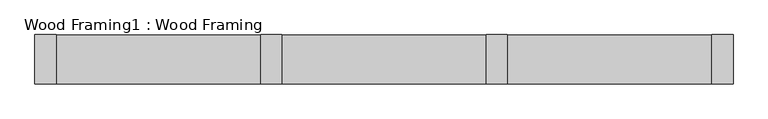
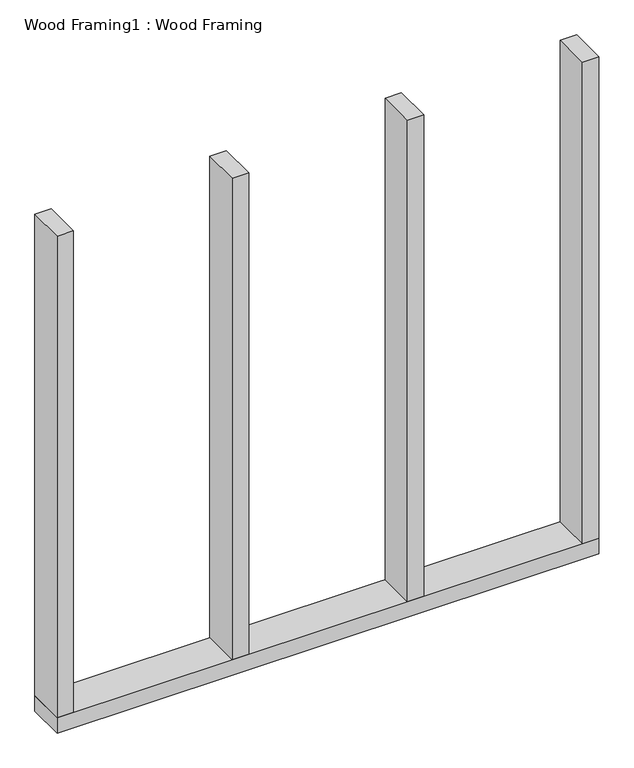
"""IFC4 building model written with IfcOpenShell, lengths in millimetres: proxy geometry, Wood Framing1 : Wood Framing."""

from ifc_helpers import new_model, si_unit, frame, origin, origin_with_axes, place, context, project, spatial, polyline, outline, extrude, source, transform, mapped, element, save


def wood_framing1_wood_framing_6a745cfe(model_context):
    return source(origin(), model_context, "Body", "SweptSolid", [
        extrude(outline(polyline([(-1442.8179718, 34793.6421435), (-1442.8179718, 34882.5421435), (-1404.7179718, 34882.5421435), (-1404.7179718, 34793.6421435), (-1442.8179718, 34793.6421435)])), frame((0.0, 0.0, 38.1), z_axis=(0.0, 0.0, 1.0), x_axis=(1.0, 0.0, 0.0)), (0.0, 0.0, 1.0), 1181.1),
        extrude(outline(polyline([(-1849.2179718, 34793.6421435), (-1849.2179718, 34882.5421435), (-1811.1179718, 34882.5421435), (-1811.1179718, 34793.6421435), (-1849.2179718, 34793.6421435)])), frame((0.0, 0.0, 38.1), z_axis=(0.0, 0.0, 1.0), x_axis=(1.0, 0.0, 0.0)), (0.0, 0.0, 1.0), 1181.1),
        extrude(outline(polyline([(-2255.6179718, 34793.6421435), (-2255.6179718, 34882.5421435), (-2217.5179718, 34882.5421435), (-2217.5179718, 34793.6421435), (-2255.6179718, 34793.6421435)])), frame((0.0, 0.0, 38.1), z_axis=(0.0, 0.0, 1.0), x_axis=(1.0, 0.0, 0.0)), (0.0, 0.0, 1.0), 1181.1),
        extrude(outline(polyline([(-2662.0179718, 34793.6421435), (-2662.0179718, 34882.5421435), (-2623.9179718, 34882.5421435), (-2623.9179718, 34793.6421435), (-2662.0179718, 34793.6421435)])), frame((0.0, 0.0, 38.1), z_axis=(0.0, 0.0, 1.0), x_axis=(1.0, 0.0, 0.0)), (0.0, 0.0, 1.0), 1181.1),
        extrude(outline(polyline([(-1404.7179718, 34882.5421435), (-1404.7179718, 34793.6421435), (-2662.0179718, 34793.6421435), (-2662.0179718, 34882.5421435), (-1404.7179718, 34882.5421435)])), origin_with_axes(), (0.0, 0.0, 1.0), 38.1),
    ])


if __name__ == "__main__":
    model = new_model("IFC4")
    model_context = context("Model", 3, world=origin())
    ifc_project = project(units=[si_unit("LENGTHUNIT", "METRE", prefix="MILLI")], contexts=[model_context])
    site = spatial("IfcSite", under=ifc_project)
    building = spatial("IfcBuilding", under=site)
    placement = place(None, origin())
    wood_framing1_wood_framing_shape = wood_framing1_wood_framing_6a745cfe(model_context)
    element("IfcBuildingElementProxy", 1, Name="Wood Framing1 : Wood Framing", ObjectType="Wood Framing1 : Wood Framing", at=placement, inside=building, context=model_context, shape_type="MappedRepresentation", body=[
        mapped(wood_framing1_wood_framing_shape, transform((0.0, 0.0, 0.0), x_axis=(1.0, 0.0, 0.0), y_axis=(0.0, 1.0, 0.0), z_axis=(0.0, 0.0, 1.0))),
    ])
    save(model, "model.ifc")
